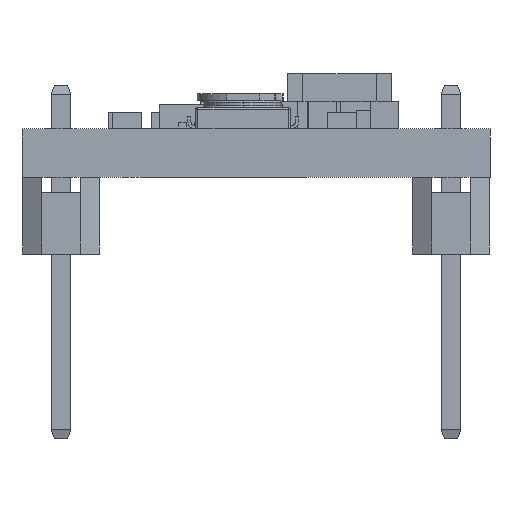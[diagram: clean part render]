
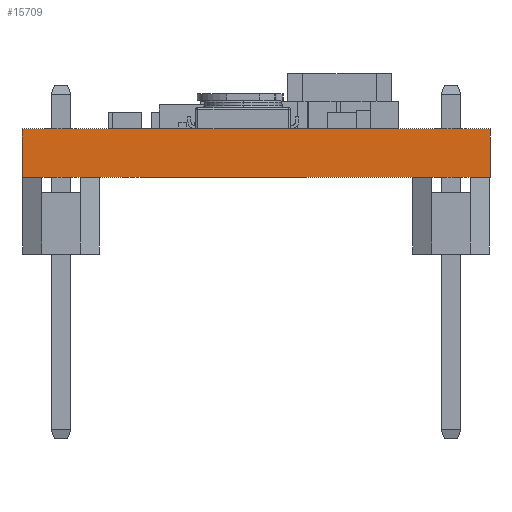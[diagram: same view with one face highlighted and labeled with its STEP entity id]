
A CAD part, front view. The second image highlights one B-rep face of the part: STEP entity #15709.
In plain terms, the highlighted planar face has unit normal (0, -1, 0).
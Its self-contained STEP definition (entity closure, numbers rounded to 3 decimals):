
#882 = ORIENTED_EDGE ( 'NONE', *, *, #32665, .T. ) ;
#4419 = CARTESIAN_POINT ( 'NONE',  ( 0., 0., 1.575 ) ) ;
#7565 = FACE_OUTER_BOUND ( 'NONE', #22950, .T. ) ;
#11598 = PLANE ( 'NONE',  #48228 ) ;
#12942 = CARTESIAN_POINT ( 'NONE',  ( 0., 0., 1.575 ) ) ;
#14112 = EDGE_CURVE ( 'NONE', #58727, #26958, #66798, .T. ) ;
#14577 = ORIENTED_EDGE ( 'NONE', *, *, #23508, .T. ) ;
#15709 = ADVANCED_FACE ( 'NONE', ( #7565 ), #11598, .F. ) ;
#15999 = DIRECTION ( 'NONE',  ( 1., 0., 0. ) ) ;
#18631 = CARTESIAN_POINT ( 'NONE',  ( 0., 0., 1.575 ) ) ;
#20632 = DIRECTION ( 'NONE',  ( 1., 0., 0. ) ) ;
#22950 = EDGE_LOOP ( 'NONE', ( #14577, #59919, #38298, #882 ) ) ;
#23382 = LINE ( 'NONE', #12942, #61745 ) ;
#23508 = EDGE_CURVE ( 'NONE', #31401, #35749, #52114, .T. ) ;
#26204 = CARTESIAN_POINT ( 'NONE',  ( 15.24, 0., 1.575 ) ) ;
#26958 = VERTEX_POINT ( 'NONE', #26204 ) ;
#30704 = DIRECTION ( 'NONE',  ( 0., 0., 1. ) ) ;
#31048 = EDGE_CURVE ( 'NONE', #26958, #35749, #43496, .T. ) ;
#31401 = VERTEX_POINT ( 'NONE', #52597 ) ;
#32647 = CARTESIAN_POINT ( 'NONE',  ( 15.24, 0., 1.575 ) ) ;
#32665 = EDGE_CURVE ( 'NONE', #58727, #31401, #23382, .T. ) ;
#34444 = VECTOR ( 'NONE', #47223, 1000. ) ;
#35749 = VERTEX_POINT ( 'NONE', #54376 ) ;
#35868 = VECTOR ( 'NONE', #15999, 1000. ) ;
#37704 = VECTOR ( 'NONE', #20632, 1000. ) ;
#38298 = ORIENTED_EDGE ( 'NONE', *, *, #14112, .F. ) ;
#38992 = DIRECTION ( 'NONE',  ( 0., 0., -1. ) ) ;
#43496 = LINE ( 'NONE', #32647, #34444 ) ;
#45670 = CARTESIAN_POINT ( 'NONE',  ( 0., 0., 0. ) ) ;
#47223 = DIRECTION ( 'NONE',  ( 0., 0., -1. ) ) ;
#48228 = AXIS2_PLACEMENT_3D ( 'NONE', #4419, #61237, #30704 ) ;
#52114 = LINE ( 'NONE', #45670, #37704 ) ;
#52597 = CARTESIAN_POINT ( 'NONE',  ( 0., 0., 0. ) ) ;
#54376 = CARTESIAN_POINT ( 'NONE',  ( 15.24, 0., 0. ) ) ;
#57961 = CARTESIAN_POINT ( 'NONE',  ( 0., 0., 1.575 ) ) ;
#58727 = VERTEX_POINT ( 'NONE', #18631 ) ;
#59919 = ORIENTED_EDGE ( 'NONE', *, *, #31048, .F. ) ;
#61237 = DIRECTION ( 'NONE',  ( 0., 1., 0. ) ) ;
#61745 = VECTOR ( 'NONE', #38992, 1000. ) ;
#66798 = LINE ( 'NONE', #57961, #35868 ) ;
